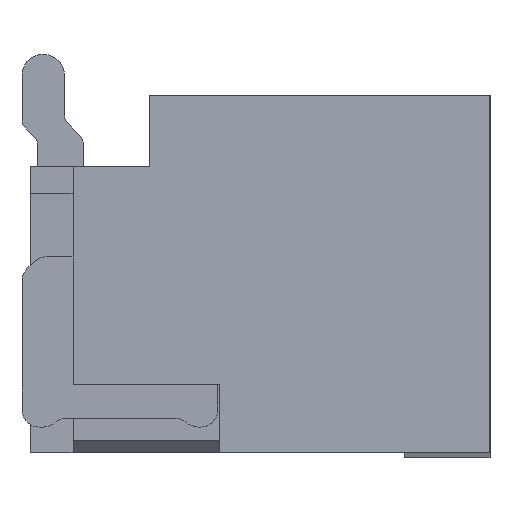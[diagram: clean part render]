
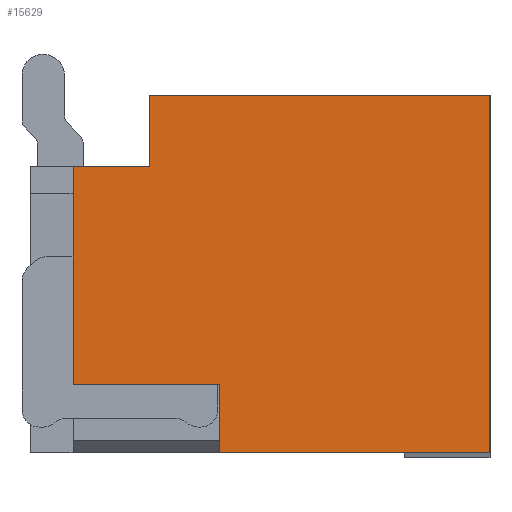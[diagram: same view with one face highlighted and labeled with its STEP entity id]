
A CAD part, left-side view. The second image highlights one B-rep face of the part: STEP entity #15629.
In plain terms, the highlighted planar face has unit normal (-1, 0, 0).
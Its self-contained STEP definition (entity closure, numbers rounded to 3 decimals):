
#565=DIRECTION('',(0.,0.,1.));
#566=VECTOR('',#565,0.42);
#567=CARTESIAN_POINT('',(45.951,48.255,-2.435));
#568=LINE('',#567,#566);
#701=DIRECTION('',(0.,1.,0.));
#702=VECTOR('',#701,1.59);
#703=CARTESIAN_POINT('',(45.951,46.255,-4.115));
#704=LINE('',#703,#702);
#737=DIRECTION('',(0.,0.,1.));
#738=VECTOR('',#737,1.28);
#739=CARTESIAN_POINT('',(45.951,48.705,-3.715));
#740=LINE('',#739,#738);
#1173=DIRECTION('',(0.,0.,-1.));
#1174=VECTOR('',#1173,2.1);
#1175=CARTESIAN_POINT('',(45.951,46.255,-2.015));
#1176=LINE('',#1175,#1174);
#1217=DIRECTION('',(0.,1.,0.));
#1218=VECTOR('',#1217,0.45);
#1219=CARTESIAN_POINT('',(45.951,48.255,-2.435));
#1220=LINE('',#1219,#1218);
#1221=DIRECTION('',(0.,1.,0.));
#1222=VECTOR('',#1221,2.);
#1223=CARTESIAN_POINT('',(45.951,46.255,-2.015));
#1224=LINE('',#1223,#1222);
#1225=DIRECTION('',(0.,0.,-1.));
#1226=VECTOR('',#1225,0.4);
#1227=CARTESIAN_POINT('',(45.951,47.845,-3.715));
#1228=LINE('',#1227,#1226);
#1761=DIRECTION('',(0.,1.,0.));
#1762=VECTOR('',#1761,0.86);
#1763=CARTESIAN_POINT('',(45.951,47.845,-3.715));
#1764=LINE('',#1763,#1762);
#10971=CARTESIAN_POINT('',(45.951,48.705,
-2.435));
#10972=VERTEX_POINT('',#10971);
#10973=CARTESIAN_POINT('',(45.951,48.705,
-3.715));
#10974=VERTEX_POINT('',#10973);
#11435=CARTESIAN_POINT('',(45.951,47.845,
-3.715));
#11436=VERTEX_POINT('',#11435);
#11499=CARTESIAN_POINT('',(45.951,47.845,
-4.115));
#11500=VERTEX_POINT('',#11499);
#11511=CARTESIAN_POINT('',(45.951,48.255,
-2.435));
#11512=VERTEX_POINT('',#11511);
#11675=CARTESIAN_POINT('',(45.951,46.255,
-2.015));
#11676=CARTESIAN_POINT('',(45.951,46.255,
-4.115));
#11677=VERTEX_POINT('',#11675);
#11678=VERTEX_POINT('',#11676);
#11697=CARTESIAN_POINT('',(45.951,48.255,
-2.015));
#11698=VERTEX_POINT('',#11697);
#15611=CARTESIAN_POINT('',(45.951,75.644,
-2.446));
#15612=DIRECTION('',(-1.,0.,0.));
#15613=DIRECTION('',(0.,0.,1.));
#15614=AXIS2_PLACEMENT_3D('',#15611,#15612,#15613);
#15615=PLANE('',#15614);
#15616=ORIENTED_EDGE('',*,*,#14617,.F.);
#15617=ORIENTED_EDGE('',*,*,#14762,.T.);
#15619=ORIENTED_EDGE('',*,*,#15618,.F.);
#15620=ORIENTED_EDGE('',*,*,#15571,.T.);
#15621=ORIENTED_EDGE('',*,*,#14988,.T.);
#15623=ORIENTED_EDGE('',*,*,#15622,.F.);
#15625=ORIENTED_EDGE('',*,*,#15624,.T.);
#15626=ORIENTED_EDGE('',*,*,#15034,.T.);
#15627=EDGE_LOOP('',(#15616,#15617,#15619,#15620,#15621,#15623,#15625,#15626));
#15628=FACE_OUTER_BOUND('',#15627,.F.);
#15629=ADVANCED_FACE('',(#15628),#15615,.T.);
#14617=EDGE_CURVE('',#11512,#10972,#1220,.T.);
#14762=EDGE_CURVE('',#11512,#11698,#568,.T.);
#14988=EDGE_CURVE('',#11678,#11500,#704,.T.);
#15034=EDGE_CURVE('',#10974,#10972,#740,.T.);
#15571=EDGE_CURVE('',#11677,#11678,#1176,.T.);
#15618=EDGE_CURVE('',#11677,#11698,#1224,.T.);
#15622=EDGE_CURVE('',#11436,#11500,#1228,.T.);
#15624=EDGE_CURVE('',#11436,#10974,#1764,.T.);
